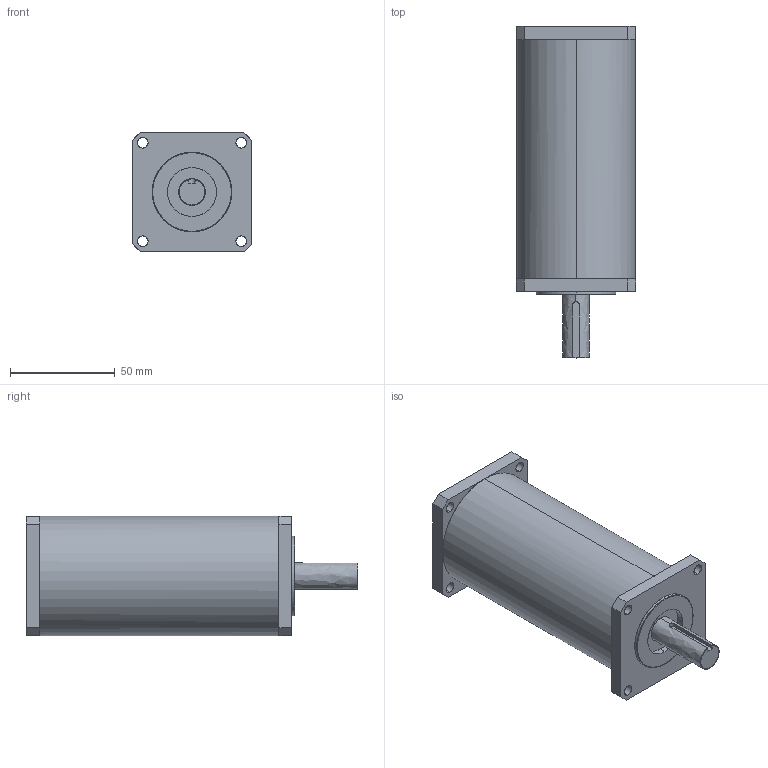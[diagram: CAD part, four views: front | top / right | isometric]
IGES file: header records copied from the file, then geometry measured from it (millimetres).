
Start section: Comment
Global section: file name: LT0135.igs; native system:  By UGS Corp.; preprocessor: XPlus GENERIC/IGES 3.0; author: Author; organization: Title; date: 20090505.123604; units: millimetre
Bounding box: 57.4 x 158.8 x 57.4 mm (x, y, z)
Surface area: 43046.3 mm2 (no closed solid volume)
Topology: 0 solids, 0 shells, 138 faces, 660 edges, 660 vertices
Faces by surface type: bspline 138
